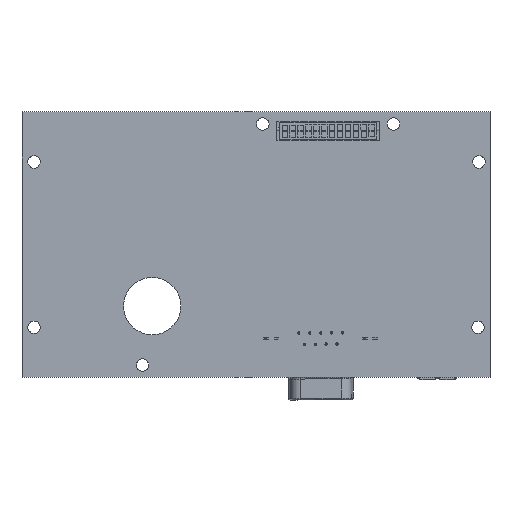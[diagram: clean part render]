
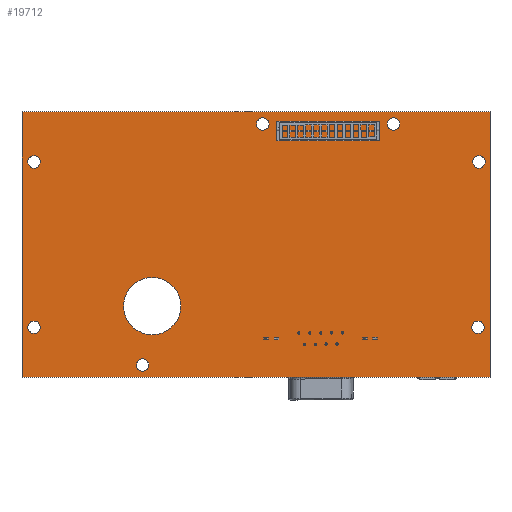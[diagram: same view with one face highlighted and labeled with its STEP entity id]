
A CAD part, top view. The second image highlights one B-rep face of the part: STEP entity #19712.
In plain terms, the highlighted planar face has unit normal (0, 0, 1).
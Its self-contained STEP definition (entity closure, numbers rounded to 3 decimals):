
#57=LINE($,#27229,#2498);
#60=LINE($,#27235,#2501);
#63=LINE($,#27241,#2504);
#66=LINE($,#27245,#2507);
#2498=VECTOR($,#22122,67.2);
#2501=VECTOR($,#22127,118.6);
#2504=VECTOR($,#22132,67.2);
#2507=VECTOR($,#22137,118.6);
#4941=PLANE($,#20761);
#5816=FACE_BOUND($,#7010,.T.);
#5817=FACE_BOUND($,#7011,.T.);
#5818=FACE_BOUND($,#7012,.T.);
#5819=FACE_BOUND($,#7013,.T.);
#5820=FACE_BOUND($,#7014,.T.);
#5821=FACE_BOUND($,#7015,.T.);
#5822=FACE_BOUND($,#7016,.T.);
#5823=FACE_BOUND($,#7017,.T.);
#5824=FACE_BOUND($,#7018,.T.);
#7010=EDGE_LOOP($,(#13059));
#7011=EDGE_LOOP($,(#13060));
#7012=EDGE_LOOP($,(#13061));
#7013=EDGE_LOOP($,(#13062));
#7014=EDGE_LOOP($,(#13063));
#7015=EDGE_LOOP($,(#13064));
#7016=EDGE_LOOP($,(#13065));
#7017=EDGE_LOOP($,(#13066));
#7018=EDGE_LOOP($,(#13067,#13068,#13069,#13070));
#8172=CIRCLE($,#20734,7.261);
#8174=CIRCLE($,#20737,1.575);
#8177=CIRCLE($,#20741,1.575);
#8179=CIRCLE($,#20744,1.575);
#8181=CIRCLE($,#20747,1.575);
#8183=CIRCLE($,#20750,1.575);
#8185=CIRCLE($,#20753,1.575);
#8187=CIRCLE($,#20756,1.575);
#8477=VERTEX_POINT($,#27183);
#8479=VERTEX_POINT($,#27188);
#8482=VERTEX_POINT($,#27195);
#8484=VERTEX_POINT($,#27200);
#8486=VERTEX_POINT($,#27205);
#8488=VERTEX_POINT($,#27210);
#8490=VERTEX_POINT($,#27215);
#8492=VERTEX_POINT($,#27220);
#8495=VERTEX_POINT($,#27226);
#8496=VERTEX_POINT($,#27228);
#8498=VERTEX_POINT($,#27234);
#8500=VERTEX_POINT($,#27240);
#10264=EDGE_CURVE($,#8477,#8477,#8172,.T.);
#10266=EDGE_CURVE($,#8479,#8479,#8174,.T.);
#10269=EDGE_CURVE($,#8482,#8482,#8177,.T.);
#10271=EDGE_CURVE($,#8484,#8484,#8179,.T.);
#10273=EDGE_CURVE($,#8486,#8486,#8181,.T.);
#10275=EDGE_CURVE($,#8488,#8488,#8183,.T.);
#10277=EDGE_CURVE($,#8490,#8490,#8185,.T.);
#10279=EDGE_CURVE($,#8492,#8492,#8187,.T.);
#10282=EDGE_CURVE($,#8496,#8495,#57,.T.);
#10285=EDGE_CURVE($,#8498,#8496,#60,.T.);
#10288=EDGE_CURVE($,#8500,#8498,#63,.T.);
#10291=EDGE_CURVE($,#8495,#8500,#66,.T.);
#13059=ORIENTED_EDGE($,*,*,#10264,.T.);
#13060=ORIENTED_EDGE($,*,*,#10266,.T.);
#13061=ORIENTED_EDGE($,*,*,#10269,.T.);
#13062=ORIENTED_EDGE($,*,*,#10271,.T.);
#13063=ORIENTED_EDGE($,*,*,#10273,.T.);
#13064=ORIENTED_EDGE($,*,*,#10275,.T.);
#13065=ORIENTED_EDGE($,*,*,#10277,.T.);
#13066=ORIENTED_EDGE($,*,*,#10279,.T.);
#13067=ORIENTED_EDGE($,*,*,#10291,.T.);
#13068=ORIENTED_EDGE($,*,*,#10288,.T.);
#13069=ORIENTED_EDGE($,*,*,#10285,.T.);
#13070=ORIENTED_EDGE($,*,*,#10282,.T.);
#19712=ADVANCED_FACE($,(#5816,#5817,#5818,#5819,#5820,#5821,#5822,#5823,
#5824),#4941,.T.);
#20734=AXIS2_PLACEMENT_3D($,#27184,#22072,#22073);
#20737=AXIS2_PLACEMENT_3D($,#27189,#22078,#22079);
#20741=AXIS2_PLACEMENT_3D($,#27196,#22086,#22087);
#20744=AXIS2_PLACEMENT_3D($,#27201,#22092,#22093);
#20747=AXIS2_PLACEMENT_3D($,#27206,#22098,#22099);
#20750=AXIS2_PLACEMENT_3D($,#27211,#22104,#22105);
#20753=AXIS2_PLACEMENT_3D($,#27216,#22110,#22111);
#20756=AXIS2_PLACEMENT_3D($,#27221,#22116,#22117);
#20761=AXIS2_PLACEMENT_3D($,#27246,#22138,#22139);
#22072=DIRECTION('center_axis',(0.,0.,
-1.));
#22073=DIRECTION('ref_axis',(1.,0.,0.));
#22078=DIRECTION('center_axis',(0.,0.,
-1.));
#22079=DIRECTION('ref_axis',(-1.,0.,0.));
#22086=DIRECTION('center_axis',(0.,0.,
-1.));
#22087=DIRECTION('ref_axis',(1.,0.,0.));
#22092=DIRECTION('center_axis',(0.,0.,
-1.));
#22093=DIRECTION('ref_axis',(1.,0.,0.));
#22098=DIRECTION('center_axis',(0.,0.,
-1.));
#22099=DIRECTION('ref_axis',(1.,0.,0.));
#22104=DIRECTION('center_axis',(0.,0.,
-1.));
#22105=DIRECTION('ref_axis',(1.,0.,0.));
#22110=DIRECTION('center_axis',(0.,0.,
-1.));
#22111=DIRECTION('ref_axis',(1.,0.,0.));
#22116=DIRECTION('center_axis',(0.,0.,
-1.));
#22117=DIRECTION('ref_axis',(1.,0.,0.));
#22122=DIRECTION($,(0.,-1.,0.));
#22127=DIRECTION($,(-1.,0.,0.));
#22132=DIRECTION($,(0.,1.,0.));
#22137=DIRECTION($,(1.,0.,0.));
#22138=DIRECTION('center_axis',(0.,0.,
1.));
#22139=DIRECTION('ref_axis',(1.,0.,0.));
#27183=CARTESIAN_POINT('',(-46.359,18.933,18.741));
#27184=CARTESIAN_POINT('Origin',(-39.098,18.933,18.741));
#27188=CARTESIAN_POINT('',(-39.973,3.983,18.741));
#27189=CARTESIAN_POINT('Origin',(-41.548,3.983,18.741));
#27195=CARTESIAN_POINT('',(23.647,65.083,18.741));
#27196=CARTESIAN_POINT('Origin',(22.072,65.083,18.741));
#27200=CARTESIAN_POINT('',(-9.503,65.083,18.741));
#27201=CARTESIAN_POINT('Origin',(-11.078,65.083,18.741));
#27205=CARTESIAN_POINT('',(45.276,55.483,18.741));
#27206=CARTESIAN_POINT('Origin',(43.701,55.483,18.741));
#27210=CARTESIAN_POINT('',(45.027,13.583,18.741));
#27211=CARTESIAN_POINT('Origin',(43.452,13.583,18.741));
#27215=CARTESIAN_POINT('',(-67.473,13.583,18.741));
#27216=CARTESIAN_POINT('Origin',(-69.048,13.583,18.741));
#27220=CARTESIAN_POINT('',(-67.473,55.483,18.741));
#27221=CARTESIAN_POINT('Origin',(-69.048,55.483,18.741));
#27226=CARTESIAN_POINT('',(-72.098,0.933,18.741));
#27228=CARTESIAN_POINT('',(-72.098,68.133,18.741));
#27229=CARTESIAN_POINT($,(-72.098,68.133,18.741));
#27234=CARTESIAN_POINT('',(46.502,68.133,18.741));
#27235=CARTESIAN_POINT($,(46.502,68.133,18.741));
#27240=CARTESIAN_POINT('',(46.502,0.933,18.741));
#27241=CARTESIAN_POINT($,(46.502,0.933,18.741));
#27245=CARTESIAN_POINT($,(-72.098,0.933,18.741));
#27246=CARTESIAN_POINT('Origin',(-12.798,34.533,18.741));
